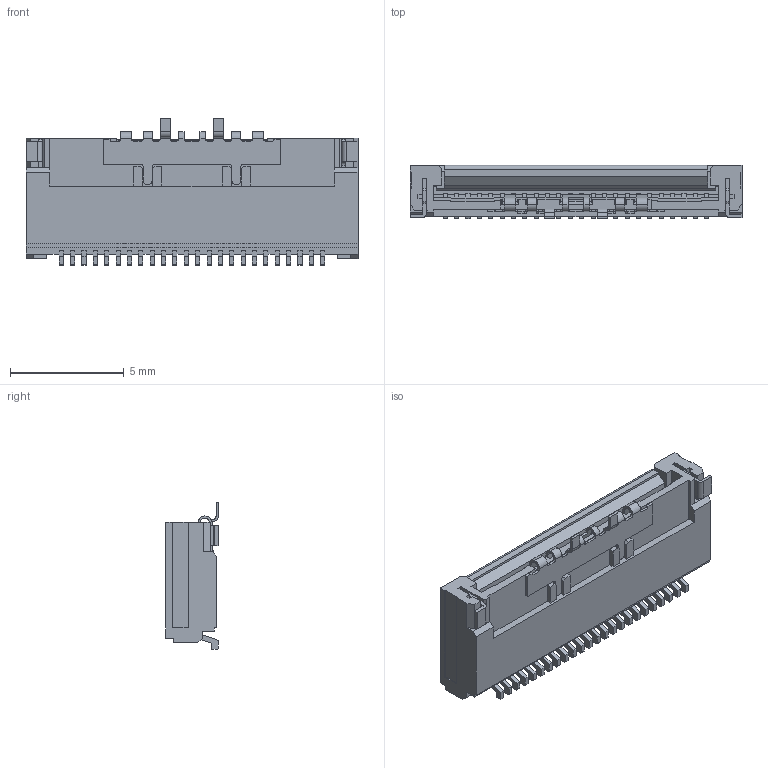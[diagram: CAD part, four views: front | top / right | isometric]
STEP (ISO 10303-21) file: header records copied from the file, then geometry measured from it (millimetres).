
FILE_DESCRIPTION(('STEP AP242'),'1');
FILE_NAME('5022442430.stp','2024-12-10T16:11:24',('TraceParts'),('TraceParts S.A.'),'Spatial InterOp 3D',' ',' ');
FILE_SCHEMA(('AP242_MANAGED_MODEL_BASED_3D_ENGINEERING_MIM_LF {1 0 10303 442 1 1 4}'));
Length unit declared in the file: millimetre
Products named in the file (1): 5022442430_1
Bounding box: 14.6 x 2.33 x 6.46 mm (x, y, z)
Volume: 116.9 mm3; surface area: 473.5 mm2
Topology: 1 solids, 1 shells, 1545 faces, 5118 edges, 3515 vertices
Faces by surface type: plane 1174, cylinder 371
Entity records: 55608 total; most frequent: ORIENTED_EDGE 10012, CARTESIAN_POINT 9956, DIRECTION 8970, EDGE_CURVE 5006, LINE 4360, VECTOR 4360, VERTEX_POINT 3291, AXIS2_PLACEMENT_3D 2305
